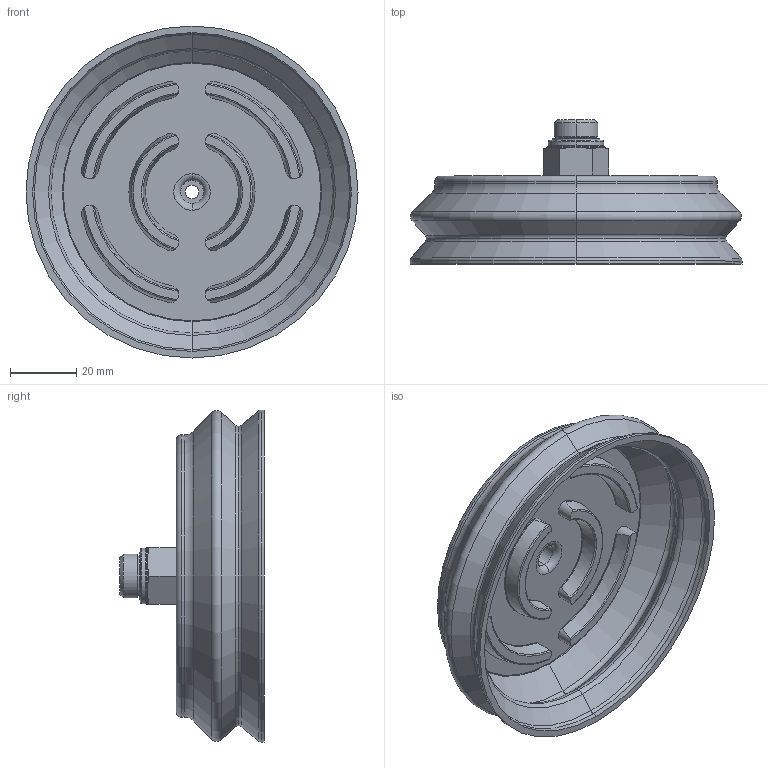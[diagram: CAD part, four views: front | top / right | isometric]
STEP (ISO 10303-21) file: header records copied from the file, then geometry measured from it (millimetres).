
FILE_DESCRIPTION (( 'STEP AP203' ), '1' );
FILE_NAME ('ZASB-100-1_4-PU.STEP', '2022-03-14T17:57:45', ( '' ), ( '' ), 'SwSTEP 2.0', 'SolidWorks 2019', '' );
FILE_SCHEMA (( 'CONFIG_CONTROL_DESIGN' ));
Length unit declared in the file: millimetre
Products named in the file (1): ZASB-100-1_4-PU
Bounding box: 100 x 43.5 x 100 mm (x, y, z)
Volume: 61141.7 mm3; surface area: 31830.1 mm2
Topology: 1 solids, 1 shells, 164 faces, 386 edges, 238 vertices
Faces by surface type: torus 54, cylinder 52, cone 36, plane 22
Entity records: 5223 total; most frequent: CARTESIAN_POINT 1365, DIRECTION 844, ORIENTED_EDGE 772, EDGE_CURVE 386, AXIS2_PLACEMENT_3D 381, VERTEX_POINT 238, CIRCLE 216, EDGE_LOOP 180
